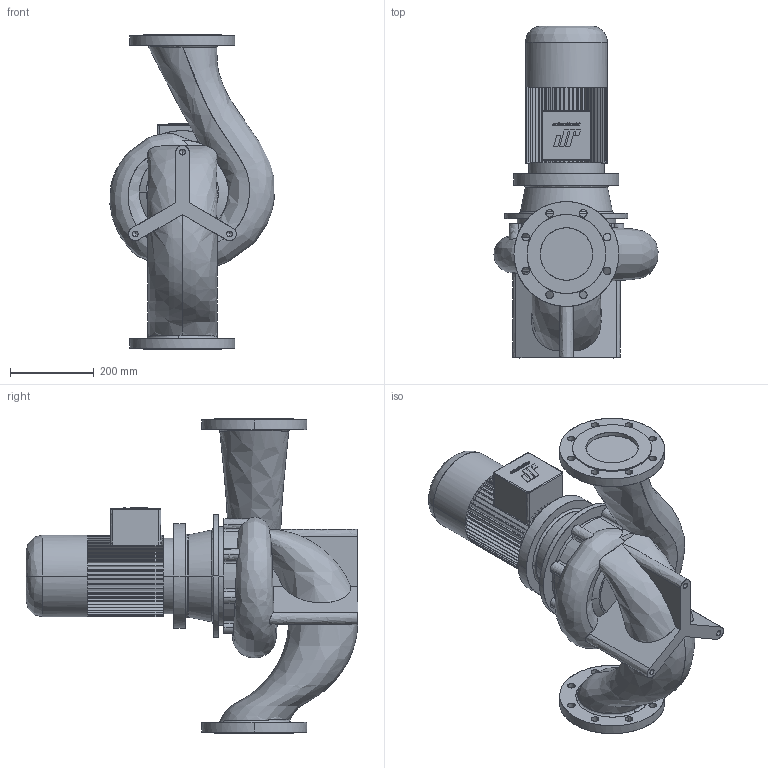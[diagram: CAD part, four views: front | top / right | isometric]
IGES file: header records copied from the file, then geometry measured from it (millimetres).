
Start section: CombiLine
Global section: file name: CLB_125-200_IEC100L_ND10.igs; native system:  By UGS Corp.; preprocessor: XPlus GENERIC/IGES 3.0; author: Stageplaats; organization: Johnson Pump Water B.V.; date: 20070717.132620; units: millimetre
Bounding box: 391.23 x 791 x 750 mm (x, y, z)
Surface area: 1516705.5 mm2 (no closed solid volume)
Topology: 0 solids, 0 shells, 687 faces, 3953 edges, 3947 vertices
Faces by surface type: bspline 687
